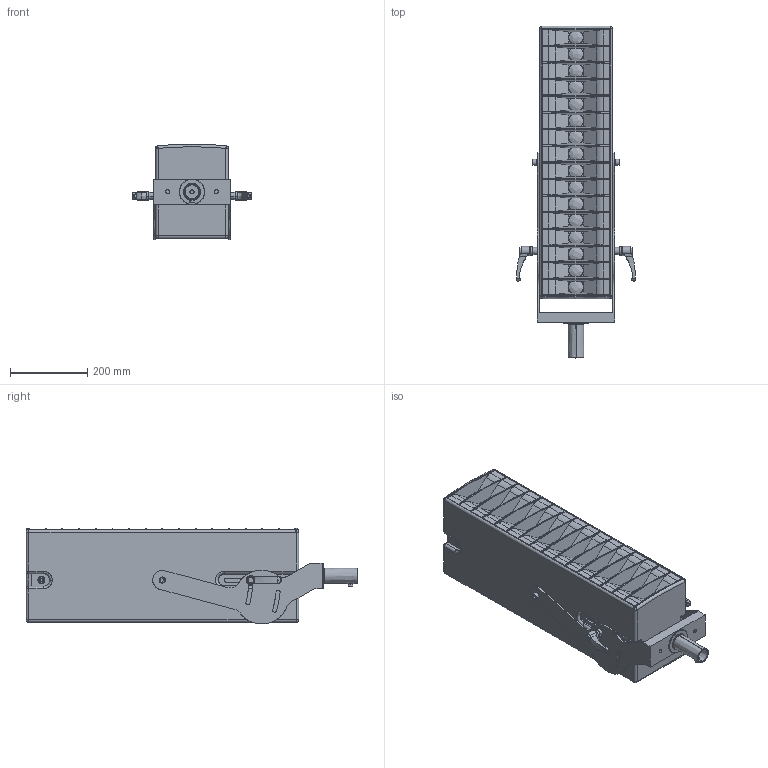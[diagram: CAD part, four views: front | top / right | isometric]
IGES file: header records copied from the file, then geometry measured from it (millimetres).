
Start section: SolidWorks IGES file using analytic representation for surfaces
Global section: file name: C:\Dokumente und Einstellungen\PC_Fabian\Desktop\G-Serie\Seeburg_GL16i_Bracket-ver.IGS; native system: SolidWorks 2009; preprocessor: SolidWorks 2009; author: PC_Fabian; date: 121015.154055; units: millimetre
Bounding box: 308.25 x 862 x 249 mm (x, y, z)
Surface area: 2002856.3 mm2 (no closed solid volume)
Topology: 0 solids, 0 shells, 1244 faces, 18051 edges, 18043 vertices
Faces by surface type: bspline 623, revolution 621
